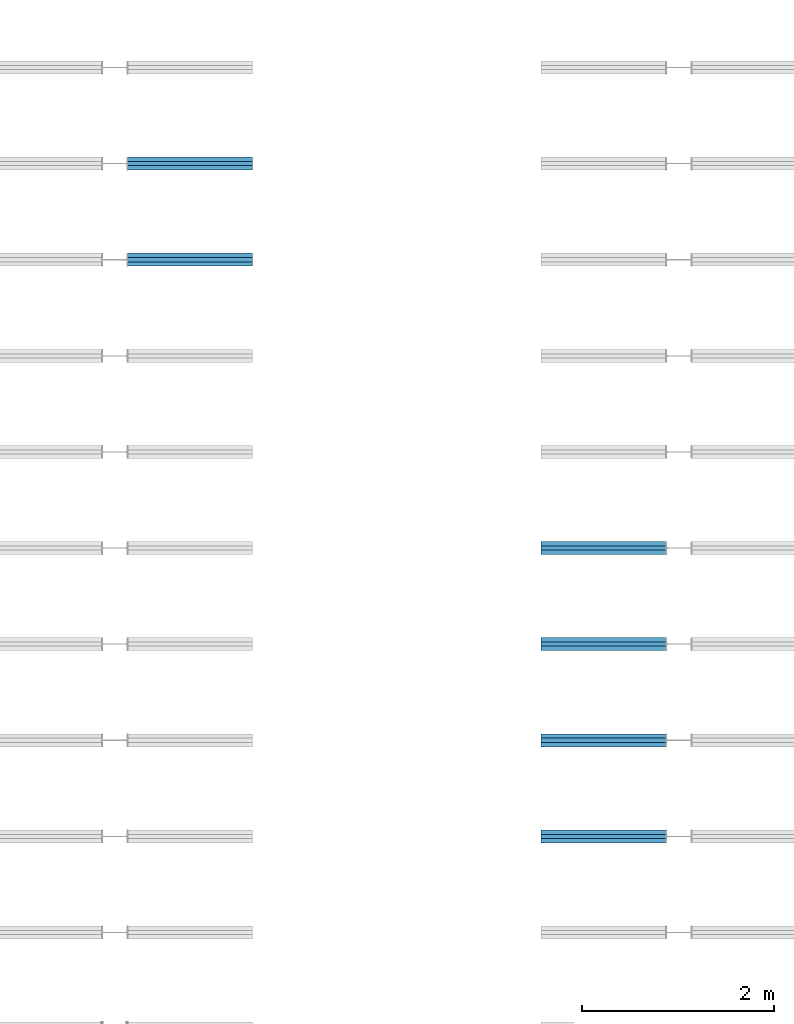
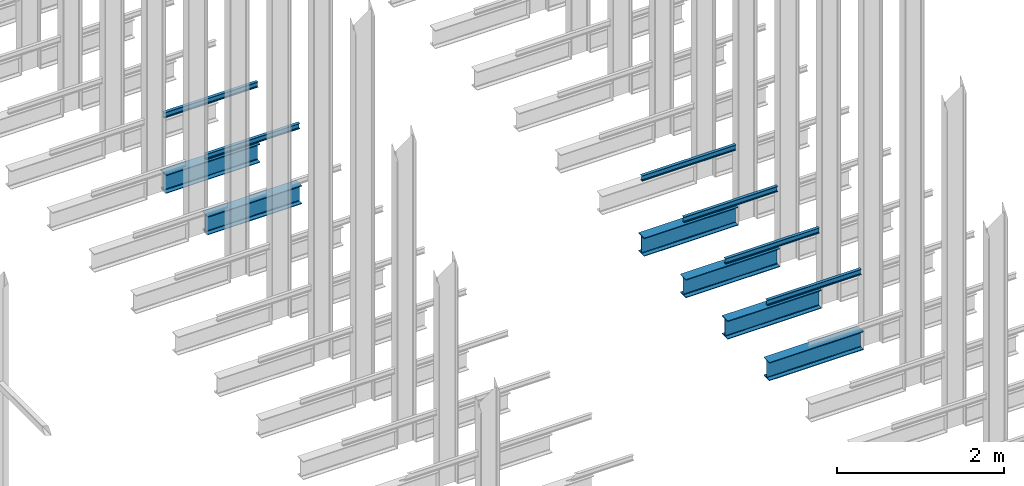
# One storey, part 174 of 302: 12 beams.
"""IFC2X3 building model written with IfcOpenShell, lengths in metres."""

from ifc_helpers import new_model, entity, si_unit, converted_unit, derived_unit, direction, frame, frame_2d, origin, place, context, subcontext, project, spatial, polyline, circle_curve, parameter, trimmed, segment, composite_curve, i_section, outline, extrude, material, type_object, element, save


model = new_model("IFC2X3")

# Units and contexts
model_context = context("Model", 3, precision=1e-05, world=origin(), true_north=direction((6.12303176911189e-17, 1.0)))
body_context = subcontext(model_context, "Body", "Model", "MODEL_VIEW")
ifc_project = project(units=[si_unit("LENGTHUNIT", "METRE"), si_unit("AREAUNIT", "SQUARE_METRE"), si_unit("VOLUMEUNIT", "CUBIC_METRE"), converted_unit("PLANEANGLEUNIT", "DEGREE", entity("IfcRatioMeasure", 0.0174532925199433), si_unit("PLANEANGLEUNIT", "RADIAN"), dimensions=[0, 0, 0, 0, 0, 0, 0]), si_unit("MASSUNIT", "GRAM", prefix="KILO"), derived_unit("MASSDENSITYUNIT", [(si_unit("MASSUNIT", "GRAM", prefix="KILO"), 1), (si_unit("LENGTHUNIT", "METRE"), -3)]), derived_unit("MOMENTOFINERTIAUNIT", [(si_unit("LENGTHUNIT", "METRE"), 4)]), si_unit("TIMEUNIT", "SECOND"), si_unit("FREQUENCYUNIT", "HERTZ"), si_unit("THERMODYNAMICTEMPERATUREUNIT", "DEGREE_CELSIUS"), derived_unit("THERMALTRANSMITTANCEUNIT", [(si_unit("MASSUNIT", "GRAM", prefix="KILO"), 1), (si_unit("THERMODYNAMICTEMPERATUREUNIT", "KELVIN"), -1), (si_unit("TIMEUNIT", "SECOND"), -3)]), derived_unit("VOLUMETRICFLOWRATEUNIT", [(si_unit("LENGTHUNIT", "METRE"), 3), (si_unit("TIMEUNIT", "SECOND"), -1)]), si_unit("ELECTRICCURRENTUNIT", "AMPERE"), si_unit("ELECTRICVOLTAGEUNIT", "VOLT"), si_unit("POWERUNIT", "WATT"), si_unit("FORCEUNIT", "NEWTON", prefix="KILO"), si_unit("ILLUMINANCEUNIT", "LUX"), si_unit("LUMINOUSFLUXUNIT", "LUMEN"), si_unit("LUMINOUSINTENSITYUNIT", "CANDELA"), derived_unit("USERDEFINED", [(si_unit("MASSUNIT", "GRAM", prefix="KILO"), -1), (si_unit("LENGTHUNIT", "METRE"), -2), (si_unit("TIMEUNIT", "SECOND"), 3), (si_unit("LUMINOUSFLUXUNIT", "LUMEN"), 1)]), derived_unit("LINEARVELOCITYUNIT", [(si_unit("LENGTHUNIT", "METRE"), 1), (si_unit("TIMEUNIT", "SECOND"), -1)]), si_unit("PRESSUREUNIT", "PASCAL"), derived_unit("USERDEFINED", [(si_unit("LENGTHUNIT", "METRE"), -2), (si_unit("MASSUNIT", "GRAM", prefix="KILO"), 1), (si_unit("TIMEUNIT", "SECOND"), -2)]), derived_unit("LINEARFORCEUNIT", [(si_unit("MASSUNIT", "GRAM", prefix="KILO"), 1), (si_unit("LENGTHUNIT", "METRE"), 1), (si_unit("TIMEUNIT", "SECOND"), -2), (si_unit("LENGTHUNIT", "METRE"), -1)]), derived_unit("PLANARFORCEUNIT", [(si_unit("MASSUNIT", "GRAM", prefix="KILO"), 1), (si_unit("LENGTHUNIT", "METRE"), 1), (si_unit("TIMEUNIT", "SECOND"), -2), (si_unit("LENGTHUNIT", "METRE"), -2)])], contexts=[model_context])

# Site, building, storey
site_placement = place(None, origin())
site = spatial("IfcSite", under=ifc_project, at=site_placement, Name="Default", CompositionType="ELEMENT")
building_placement = place(site_placement, origin())
building = spatial("IfcBuilding", under=site, at=building_placement, CompositionType="ELEMENT")
storey_placement = place(building_placement, frame((0.0, 0.0, -1.3)))
storey = spatial("IfcBuildingStorey", under=building, at=storey_placement, Name="00_EG", CompositionType="ELEMENT", Elevation=-1.3)

# Beams
ifc_material = material(Name="Metall - Baustahl S235")
beam_type_1 = type_object("IfcBeamType", Name="IPN Träger:IPN 80", PredefinedType="NOTDEFINED")
beam_1_placement = place(storey_placement, frame((-170.510111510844, 46.9945889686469, 2.42)))
element("IfcBeam", 1, at=beam_1_placement, inside=storey, type_object=beam_type_1, material=ifc_material, Name="IPN Träger:IPN 80", ObjectType="IPN Träger:IPN 80", context=body_context, shape_type="SweptSolid", body=[
    extrude(outline(composite_curve([segment(polyline([(0.0375704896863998, -0.0210000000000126), (0.0399999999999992, -0.0210000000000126)]), True, "CONTINUOUS"), segment(polyline([(0.0399999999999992, -0.0210000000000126), (0.0399999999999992, 0.0209999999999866)]), True, "CONTINUOUS"), segment(polyline([(0.039999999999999, 0.0209999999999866), (0.037570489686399, 0.0209999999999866)]), True, "CONTINUOUS"), segment(trimmed(circle_curve(frame_2d((0.0375704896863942, 0.0186999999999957), x_axis=(0.0, 1.0)), 0.0022999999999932), [parameter(0.0)], [parameter(82.0300000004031)], True, "PARAMETER"), True, "CONTINUOUS"), segment(polyline([(0.0352927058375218, 0.0190189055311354), (0.0333732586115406, 0.00530924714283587)]), True, "CONTINUOUS"), segment(trimmed(circle_curve(frame_2d((0.0295109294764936, 0.00584999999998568), x_axis=(0.990340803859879, -0.138654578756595)), 0.00389999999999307), [parameter(277.969999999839)], [parameter(0.0)], True, "PARAMETER"), False, "CONTINUOUS"), segment(polyline([(0.0295109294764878, 0.00194999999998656), (-0.0295109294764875, 0.00194999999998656)]), True, "CONTINUOUS"), segment(trimmed(circle_curve(frame_2d((-0.0295109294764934, 0.00584999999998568), x_axis=(0.0, -1.0)), 0.00389999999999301), [parameter(277.969999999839)], [parameter(0.0)], True, "PARAMETER"), False, "CONTINUOUS"), segment(polyline([(-0.0333732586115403, 0.00530924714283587), (-0.0352927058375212, 0.0190189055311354)]), True, "CONTINUOUS"), segment(trimmed(circle_curve(frame_2d((-0.0375704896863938, 0.0186999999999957), x_axis=(0.990340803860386, 0.138654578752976)), 0.00229999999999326), [parameter(0.0)], [parameter(82.0300000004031)], True, "PARAMETER"), True, "CONTINUOUS"), segment(polyline([(-0.0375704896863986, 0.0209999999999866), (-0.0400000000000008, 0.0209999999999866)]), True, "CONTINUOUS"), segment(polyline([(-0.0400000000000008, 0.0209999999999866), (-0.0400000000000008, -0.0210000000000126)]), True, "CONTINUOUS"), segment(polyline([(-0.0400000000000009, -0.0210000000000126), (-0.037570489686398, -0.0210000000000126)]), True, "CONTINUOUS"), segment(trimmed(circle_curve(frame_2d((-0.0375704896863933, -0.0187000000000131), x_axis=(0.0, -1.0)), 0.00229999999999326), [parameter(0.0)], [parameter(82.0300000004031)], True, "PARAMETER"), True, "CONTINUOUS"), segment(polyline([(-0.0352927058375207, -0.0190189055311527), (-0.0333732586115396, -0.0053092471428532)]), True, "CONTINUOUS"), segment(trimmed(circle_curve(frame_2d((-0.0295109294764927, -0.005850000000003), x_axis=(-0.990340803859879, 0.138654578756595)), 0.00389999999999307), [parameter(277.969999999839)], [parameter(0.0)], True, "PARAMETER"), False, "CONTINUOUS"), segment(polyline([(-0.0295109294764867, -0.00195000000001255), (0.0295109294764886, -0.00195000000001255)]), True, "CONTINUOUS"), segment(trimmed(circle_curve(frame_2d((0.0295109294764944, -0.005850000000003), x_axis=(0.0, 1.0)), 0.00389999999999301), [parameter(277.969999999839)], [parameter(0.0)], True, "PARAMETER"), False, "CONTINUOUS"), segment(polyline([(0.0333732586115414, -0.0053092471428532), (0.0352927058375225, -0.0190189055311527)]), True, "CONTINUOUS"), segment(trimmed(circle_curve(frame_2d((0.0375704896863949, -0.0187000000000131), x_axis=(-0.990340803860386, -0.138654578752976)), 0.00229999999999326), [parameter(0.0)], [parameter(82.0300000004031)], True, "PARAMETER"), True, "CONTINUOUS")], self_intersect=False)), frame((0.000100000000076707, 0.0210000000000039, -0.0400000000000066), z_axis=(1.0, 0.0, 0.0), x_axis=(0.0, 0.0, -1.0)), (0.0, 0.0, 1.0), 1.29990000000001),
])
beam_2_placement = place(storey_placement, frame((-170.510111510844, 45.9945889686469, 2.42)))
element("IfcBeam", 2, at=beam_2_placement, inside=storey, type_object=beam_type_1, material=ifc_material, Name="IPN Träger:IPN 80", ObjectType="IPN Träger:IPN 80", context=body_context, shape_type="SweptSolid", body=[
    extrude(outline(composite_curve([segment(polyline([(0.0375704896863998, -0.0210000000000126), (0.0399999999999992, -0.0210000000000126)]), True, "CONTINUOUS"), segment(polyline([(0.0399999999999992, -0.0210000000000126), (0.0399999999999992, 0.0209999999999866)]), True, "CONTINUOUS"), segment(polyline([(0.039999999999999, 0.0209999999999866), (0.037570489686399, 0.0209999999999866)]), True, "CONTINUOUS"), segment(trimmed(circle_curve(frame_2d((0.0375704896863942, 0.0186999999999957), x_axis=(0.0, 1.0)), 0.0022999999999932), [parameter(0.0)], [parameter(82.0300000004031)], True, "PARAMETER"), True, "CONTINUOUS"), segment(polyline([(0.0352927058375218, 0.0190189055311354), (0.0333732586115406, 0.00530924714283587)]), True, "CONTINUOUS"), segment(trimmed(circle_curve(frame_2d((0.0295109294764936, 0.00584999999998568), x_axis=(0.990340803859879, -0.138654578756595)), 0.00389999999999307), [parameter(277.969999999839)], [parameter(0.0)], True, "PARAMETER"), False, "CONTINUOUS"), segment(polyline([(0.0295109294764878, 0.00194999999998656), (-0.0295109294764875, 0.00194999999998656)]), True, "CONTINUOUS"), segment(trimmed(circle_curve(frame_2d((-0.0295109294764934, 0.00584999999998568), x_axis=(0.0, -1.0)), 0.00389999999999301), [parameter(277.969999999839)], [parameter(0.0)], True, "PARAMETER"), False, "CONTINUOUS"), segment(polyline([(-0.0333732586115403, 0.00530924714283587), (-0.0352927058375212, 0.0190189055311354)]), True, "CONTINUOUS"), segment(trimmed(circle_curve(frame_2d((-0.0375704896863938, 0.0186999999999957), x_axis=(0.990340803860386, 0.138654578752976)), 0.00229999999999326), [parameter(0.0)], [parameter(82.0300000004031)], True, "PARAMETER"), True, "CONTINUOUS"), segment(polyline([(-0.0375704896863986, 0.0209999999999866), (-0.0400000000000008, 0.0209999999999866)]), True, "CONTINUOUS"), segment(polyline([(-0.0400000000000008, 0.0209999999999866), (-0.0400000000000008, -0.0210000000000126)]), True, "CONTINUOUS"), segment(polyline([(-0.0400000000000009, -0.0210000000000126), (-0.037570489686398, -0.0210000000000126)]), True, "CONTINUOUS"), segment(trimmed(circle_curve(frame_2d((-0.0375704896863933, -0.0187000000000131), x_axis=(0.0, -1.0)), 0.00229999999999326), [parameter(0.0)], [parameter(82.0300000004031)], True, "PARAMETER"), True, "CONTINUOUS"), segment(polyline([(-0.0352927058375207, -0.0190189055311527), (-0.0333732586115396, -0.0053092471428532)]), True, "CONTINUOUS"), segment(trimmed(circle_curve(frame_2d((-0.0295109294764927, -0.005850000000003), x_axis=(-0.990340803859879, 0.138654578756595)), 0.00389999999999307), [parameter(277.969999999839)], [parameter(0.0)], True, "PARAMETER"), False, "CONTINUOUS"), segment(polyline([(-0.0295109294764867, -0.00195000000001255), (0.0295109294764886, -0.00195000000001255)]), True, "CONTINUOUS"), segment(trimmed(circle_curve(frame_2d((0.0295109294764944, -0.005850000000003), x_axis=(0.0, 1.0)), 0.00389999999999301), [parameter(277.969999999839)], [parameter(0.0)], True, "PARAMETER"), False, "CONTINUOUS"), segment(polyline([(0.0333732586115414, -0.0053092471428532), (0.0352927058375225, -0.0190189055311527)]), True, "CONTINUOUS"), segment(trimmed(circle_curve(frame_2d((0.0375704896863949, -0.0187000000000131), x_axis=(-0.990340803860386, -0.138654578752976)), 0.00229999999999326), [parameter(0.0)], [parameter(82.0300000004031)], True, "PARAMETER"), True, "CONTINUOUS")], self_intersect=False)), frame((0.000100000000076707, 0.0210000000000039, -0.0400000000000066), z_axis=(1.0, 0.0, 0.0), x_axis=(0.0, 0.0, -1.0)), (0.0, 0.0, 1.0), 1.29990000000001),
])
beam_3_placement = place(storey_placement, frame((-164.910111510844, 43.0365889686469, 2.42), z_axis=(0.0, 0.0, 1.0), x_axis=(-1.0, 0.0, 0.0)))
element("IfcBeam", 3, at=beam_3_placement, inside=storey, type_object=beam_type_1, material=ifc_material, Name="IPN Träger:IPN 80", ObjectType="IPN Träger:IPN 80", context=body_context, shape_type="SweptSolid", body=[
    extrude(outline(composite_curve([segment(polyline([(0.0375704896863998, -0.0209999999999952), (0.0399999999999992, -0.0209999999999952)]), True, "CONTINUOUS"), segment(polyline([(0.0399999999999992, -0.0209999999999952), (0.0399999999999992, 0.0210000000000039)]), True, "CONTINUOUS"), segment(polyline([(0.039999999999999, 0.0210000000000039), (0.037570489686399, 0.0210000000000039)]), True, "CONTINUOUS"), segment(trimmed(circle_curve(frame_2d((0.0375704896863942, 0.0187000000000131), x_axis=(0.0, 1.0)), 0.0022999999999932), [parameter(0.0)], [parameter(82.0300000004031)], True, "PARAMETER"), True, "CONTINUOUS"), segment(polyline([(0.0352927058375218, 0.0190189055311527), (0.0333732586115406, 0.0053092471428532)]), True, "CONTINUOUS"), segment(trimmed(circle_curve(frame_2d((0.0295109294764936, 0.005850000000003), x_axis=(0.990340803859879, -0.138654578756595)), 0.00389999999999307), [parameter(277.969999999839)], [parameter(0.0)], True, "PARAMETER"), False, "CONTINUOUS"), segment(polyline([(0.0295109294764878, 0.00195000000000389), (-0.0295109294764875, 0.00195000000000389)]), True, "CONTINUOUS"), segment(trimmed(circle_curve(frame_2d((-0.0295109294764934, 0.005850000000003), x_axis=(0.0, -1.0)), 0.00389999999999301), [parameter(277.969999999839)], [parameter(0.0)], True, "PARAMETER"), False, "CONTINUOUS"), segment(polyline([(-0.0333732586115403, 0.0053092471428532), (-0.0352927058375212, 0.0190189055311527)]), True, "CONTINUOUS"), segment(trimmed(circle_curve(frame_2d((-0.0375704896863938, 0.0187000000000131), x_axis=(0.990340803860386, 0.138654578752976)), 0.00229999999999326), [parameter(0.0)], [parameter(82.0300000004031)], True, "PARAMETER"), True, "CONTINUOUS"), segment(polyline([(-0.0375704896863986, 0.0210000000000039), (-0.0400000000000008, 0.0210000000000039)]), True, "CONTINUOUS"), segment(polyline([(-0.0400000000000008, 0.0210000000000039), (-0.0400000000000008, -0.0209999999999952)]), True, "CONTINUOUS"), segment(polyline([(-0.0400000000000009, -0.0209999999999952), (-0.037570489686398, -0.0209999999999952)]), True, "CONTINUOUS"), segment(trimmed(circle_curve(frame_2d((-0.0375704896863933, -0.0186999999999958), x_axis=(0.0, -1.0)), 0.00229999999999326), [parameter(0.0)], [parameter(82.0300000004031)], True, "PARAMETER"), True, "CONTINUOUS"), segment(polyline([(-0.0352927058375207, -0.0190189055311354), (-0.0333732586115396, -0.00530924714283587)]), True, "CONTINUOUS"), segment(trimmed(circle_curve(frame_2d((-0.0295109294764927, -0.00584999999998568), x_axis=(-0.990340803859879, 0.138654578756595)), 0.00389999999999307), [parameter(277.969999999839)], [parameter(0.0)], True, "PARAMETER"), False, "CONTINUOUS"), segment(polyline([(-0.0295109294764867, -0.00194999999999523), (0.0295109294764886, -0.00194999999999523)]), True, "CONTINUOUS"), segment(trimmed(circle_curve(frame_2d((0.0295109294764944, -0.00584999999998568), x_axis=(0.0, 1.0)), 0.00389999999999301), [parameter(277.969999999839)], [parameter(0.0)], True, "PARAMETER"), False, "CONTINUOUS"), segment(polyline([(0.0333732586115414, -0.00530924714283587), (0.0352927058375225, -0.0190189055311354)]), True, "CONTINUOUS"), segment(trimmed(circle_curve(frame_2d((0.0375704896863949, -0.0186999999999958), x_axis=(-0.990340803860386, -0.138654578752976)), 0.00229999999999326), [parameter(0.0)], [parameter(82.0300000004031)], True, "PARAMETER"), True, "CONTINUOUS")], self_intersect=False)), frame((0.000100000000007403, 0.0209999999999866, -0.0400000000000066), z_axis=(1.0, 0.0, 0.0), x_axis=(0.0, 0.0, -1.0)), (0.0, 0.0, 1.0), 1.29990000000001),
])
beam_4_placement = place(storey_placement, frame((-164.910111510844, 42.036588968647, 2.42), z_axis=(0.0, 0.0, 1.0), x_axis=(-1.0, 0.0, 0.0)))
element("IfcBeam", 4, at=beam_4_placement, inside=storey, type_object=beam_type_1, material=ifc_material, Name="IPN Träger:IPN 80", ObjectType="IPN Träger:IPN 80", context=body_context, shape_type="SweptSolid", body=[
    extrude(outline(composite_curve([segment(polyline([(0.0375704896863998, -0.0210000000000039), (0.0399999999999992, -0.0210000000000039)]), True, "CONTINUOUS"), segment(polyline([(0.0399999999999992, -0.0210000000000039), (0.0399999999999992, 0.0209999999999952)]), True, "CONTINUOUS"), segment(polyline([(0.039999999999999, 0.0209999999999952), (0.037570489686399, 0.0209999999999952)]), True, "CONTINUOUS"), segment(trimmed(circle_curve(frame_2d((0.0375704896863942, 0.0187000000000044), x_axis=(0.0, 1.0)), 0.0022999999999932), [parameter(0.0)], [parameter(82.0300000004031)], True, "PARAMETER"), True, "CONTINUOUS"), segment(polyline([(0.0352927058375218, 0.019018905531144), (0.0333732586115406, 0.00530924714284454)]), True, "CONTINUOUS"), segment(trimmed(circle_curve(frame_2d((0.0295109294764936, 0.00584999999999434), x_axis=(0.990340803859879, -0.138654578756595)), 0.00389999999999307), [parameter(277.969999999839)], [parameter(0.0)], True, "PARAMETER"), False, "CONTINUOUS"), segment(polyline([(0.0295109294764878, 0.00194999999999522), (-0.0295109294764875, 0.00194999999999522)]), True, "CONTINUOUS"), segment(trimmed(circle_curve(frame_2d((-0.0295109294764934, 0.00584999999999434), x_axis=(0.0, -1.0)), 0.00389999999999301), [parameter(277.969999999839)], [parameter(0.0)], True, "PARAMETER"), False, "CONTINUOUS"), segment(polyline([(-0.0333732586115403, 0.00530924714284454), (-0.0352927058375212, 0.019018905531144)]), True, "CONTINUOUS"), segment(trimmed(circle_curve(frame_2d((-0.0375704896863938, 0.0187000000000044), x_axis=(0.990340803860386, 0.138654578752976)), 0.00229999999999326), [parameter(0.0)], [parameter(82.0300000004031)], True, "PARAMETER"), True, "CONTINUOUS"), segment(polyline([(-0.0375704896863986, 0.0209999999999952), (-0.0400000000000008, 0.0209999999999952)]), True, "CONTINUOUS"), segment(polyline([(-0.0400000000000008, 0.0209999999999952), (-0.0400000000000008, -0.0210000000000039)]), True, "CONTINUOUS"), segment(polyline([(-0.0400000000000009, -0.0210000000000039), (-0.037570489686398, -0.0210000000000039)]), True, "CONTINUOUS"), segment(trimmed(circle_curve(frame_2d((-0.0375704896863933, -0.0187000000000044), x_axis=(0.0, -1.0)), 0.00229999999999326), [parameter(0.0)], [parameter(82.0300000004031)], True, "PARAMETER"), True, "CONTINUOUS"), segment(polyline([(-0.0352927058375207, -0.019018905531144), (-0.0333732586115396, -0.00530924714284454)]), True, "CONTINUOUS"), segment(trimmed(circle_curve(frame_2d((-0.0295109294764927, -0.00584999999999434), x_axis=(-0.990340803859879, 0.138654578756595)), 0.00389999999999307), [parameter(277.969999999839)], [parameter(0.0)], True, "PARAMETER"), False, "CONTINUOUS"), segment(polyline([(-0.0295109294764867, -0.00195000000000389), (0.0295109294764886, -0.00195000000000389)]), True, "CONTINUOUS"), segment(trimmed(circle_curve(frame_2d((0.0295109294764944, -0.00584999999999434), x_axis=(0.0, 1.0)), 0.00389999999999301), [parameter(277.969999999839)], [parameter(0.0)], True, "PARAMETER"), False, "CONTINUOUS"), segment(polyline([(0.0333732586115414, -0.00530924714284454), (0.0352927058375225, -0.019018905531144)]), True, "CONTINUOUS"), segment(trimmed(circle_curve(frame_2d((0.0375704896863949, -0.0187000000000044), x_axis=(-0.990340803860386, -0.138654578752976)), 0.00229999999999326), [parameter(0.0)], [parameter(82.0300000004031)], True, "PARAMETER"), True, "CONTINUOUS")], self_intersect=False)), frame((0.000100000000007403, 0.0209999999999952, -0.0400000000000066), z_axis=(1.0, 0.0, 0.0), x_axis=(0.0, 0.0, -1.0)), (0.0, 0.0, 1.0), 1.29990000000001),
])
beam_5_placement = place(storey_placement, frame((-164.910111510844, 41.036588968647, 2.42), z_axis=(0.0, 0.0, 1.0), x_axis=(-1.0, 0.0, 0.0)))
element("IfcBeam", 5, at=beam_5_placement, inside=storey, type_object=beam_type_1, material=ifc_material, Name="IPN Träger:IPN 80", ObjectType="IPN Träger:IPN 80", context=body_context, shape_type="SweptSolid", body=[
    extrude(outline(composite_curve([segment(polyline([(0.0375704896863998, -0.0210000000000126), (0.0399999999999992, -0.0210000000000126)]), True, "CONTINUOUS"), segment(polyline([(0.0399999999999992, -0.0210000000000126), (0.0399999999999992, 0.0209999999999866)]), True, "CONTINUOUS"), segment(polyline([(0.039999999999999, 0.0209999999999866), (0.037570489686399, 0.0209999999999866)]), True, "CONTINUOUS"), segment(trimmed(circle_curve(frame_2d((0.0375704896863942, 0.0186999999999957), x_axis=(0.0, 1.0)), 0.0022999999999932), [parameter(0.0)], [parameter(82.0300000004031)], True, "PARAMETER"), True, "CONTINUOUS"), segment(polyline([(0.0352927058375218, 0.0190189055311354), (0.0333732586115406, 0.00530924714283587)]), True, "CONTINUOUS"), segment(trimmed(circle_curve(frame_2d((0.0295109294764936, 0.00584999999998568), x_axis=(0.990340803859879, -0.138654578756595)), 0.00389999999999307), [parameter(277.969999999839)], [parameter(0.0)], True, "PARAMETER"), False, "CONTINUOUS"), segment(polyline([(0.0295109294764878, 0.00194999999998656), (-0.0295109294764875, 0.00194999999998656)]), True, "CONTINUOUS"), segment(trimmed(circle_curve(frame_2d((-0.0295109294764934, 0.00584999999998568), x_axis=(0.0, -1.0)), 0.00389999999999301), [parameter(277.969999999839)], [parameter(0.0)], True, "PARAMETER"), False, "CONTINUOUS"), segment(polyline([(-0.0333732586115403, 0.00530924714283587), (-0.0352927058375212, 0.0190189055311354)]), True, "CONTINUOUS"), segment(trimmed(circle_curve(frame_2d((-0.0375704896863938, 0.0186999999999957), x_axis=(0.990340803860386, 0.138654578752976)), 0.00229999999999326), [parameter(0.0)], [parameter(82.0300000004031)], True, "PARAMETER"), True, "CONTINUOUS"), segment(polyline([(-0.0375704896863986, 0.0209999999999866), (-0.0400000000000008, 0.0209999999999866)]), True, "CONTINUOUS"), segment(polyline([(-0.0400000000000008, 0.0209999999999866), (-0.0400000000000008, -0.0210000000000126)]), True, "CONTINUOUS"), segment(polyline([(-0.0400000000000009, -0.0210000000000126), (-0.037570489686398, -0.0210000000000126)]), True, "CONTINUOUS"), segment(trimmed(circle_curve(frame_2d((-0.0375704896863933, -0.0187000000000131), x_axis=(0.0, -1.0)), 0.00229999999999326), [parameter(0.0)], [parameter(82.0300000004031)], True, "PARAMETER"), True, "CONTINUOUS"), segment(polyline([(-0.0352927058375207, -0.0190189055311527), (-0.0333732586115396, -0.0053092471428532)]), True, "CONTINUOUS"), segment(trimmed(circle_curve(frame_2d((-0.0295109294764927, -0.005850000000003), x_axis=(-0.990340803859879, 0.138654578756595)), 0.00389999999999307), [parameter(277.969999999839)], [parameter(0.0)], True, "PARAMETER"), False, "CONTINUOUS"), segment(polyline([(-0.0295109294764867, -0.00195000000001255), (0.0295109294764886, -0.00195000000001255)]), True, "CONTINUOUS"), segment(trimmed(circle_curve(frame_2d((0.0295109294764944, -0.005850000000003), x_axis=(0.0, 1.0)), 0.00389999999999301), [parameter(277.969999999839)], [parameter(0.0)], True, "PARAMETER"), False, "CONTINUOUS"), segment(polyline([(0.0333732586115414, -0.0053092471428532), (0.0352927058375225, -0.0190189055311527)]), True, "CONTINUOUS"), segment(trimmed(circle_curve(frame_2d((0.0375704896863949, -0.0187000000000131), x_axis=(-0.990340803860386, -0.138654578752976)), 0.00229999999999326), [parameter(0.0)], [parameter(82.0300000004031)], True, "PARAMETER"), True, "CONTINUOUS")], self_intersect=False)), frame((0.000100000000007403, 0.0210000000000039, -0.0400000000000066), z_axis=(1.0, 0.0, 0.0), x_axis=(0.0, 0.0, -1.0)), (0.0, 0.0, 1.0), 1.29990000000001),
])
beam_6_placement = place(storey_placement, frame((-164.910111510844, 40.036588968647, 2.42), z_axis=(0.0, 0.0, 1.0), x_axis=(-1.0, 0.0, 0.0)))
element("IfcBeam", 6, at=beam_6_placement, inside=storey, type_object=beam_type_1, material=ifc_material, Name="IPN Träger:IPN 80", ObjectType="IPN Träger:IPN 80", context=body_context, shape_type="SweptSolid", body=[
    extrude(outline(composite_curve([segment(polyline([(0.0375704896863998, -0.0210000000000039), (0.0399999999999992, -0.0210000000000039)]), True, "CONTINUOUS"), segment(polyline([(0.0399999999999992, -0.0210000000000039), (0.0399999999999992, 0.0209999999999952)]), True, "CONTINUOUS"), segment(polyline([(0.039999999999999, 0.0209999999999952), (0.037570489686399, 0.0209999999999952)]), True, "CONTINUOUS"), segment(trimmed(circle_curve(frame_2d((0.0375704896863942, 0.0187000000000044), x_axis=(0.0, 1.0)), 0.0022999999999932), [parameter(0.0)], [parameter(82.0300000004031)], True, "PARAMETER"), True, "CONTINUOUS"), segment(polyline([(0.0352927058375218, 0.019018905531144), (0.0333732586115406, 0.00530924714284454)]), True, "CONTINUOUS"), segment(trimmed(circle_curve(frame_2d((0.0295109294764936, 0.00584999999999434), x_axis=(0.990340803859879, -0.138654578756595)), 0.00389999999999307), [parameter(277.969999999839)], [parameter(0.0)], True, "PARAMETER"), False, "CONTINUOUS"), segment(polyline([(0.0295109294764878, 0.00194999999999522), (-0.0295109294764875, 0.00194999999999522)]), True, "CONTINUOUS"), segment(trimmed(circle_curve(frame_2d((-0.0295109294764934, 0.00584999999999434), x_axis=(0.0, -1.0)), 0.00389999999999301), [parameter(277.969999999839)], [parameter(0.0)], True, "PARAMETER"), False, "CONTINUOUS"), segment(polyline([(-0.0333732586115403, 0.00530924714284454), (-0.0352927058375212, 0.019018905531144)]), True, "CONTINUOUS"), segment(trimmed(circle_curve(frame_2d((-0.0375704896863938, 0.0187000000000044), x_axis=(0.990340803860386, 0.138654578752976)), 0.00229999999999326), [parameter(0.0)], [parameter(82.0300000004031)], True, "PARAMETER"), True, "CONTINUOUS"), segment(polyline([(-0.0375704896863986, 0.0209999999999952), (-0.0400000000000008, 0.0209999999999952)]), True, "CONTINUOUS"), segment(polyline([(-0.0400000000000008, 0.0209999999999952), (-0.0400000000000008, -0.0210000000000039)]), True, "CONTINUOUS"), segment(polyline([(-0.0400000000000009, -0.0210000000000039), (-0.037570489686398, -0.0210000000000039)]), True, "CONTINUOUS"), segment(trimmed(circle_curve(frame_2d((-0.0375704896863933, -0.0187000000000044), x_axis=(0.0, -1.0)), 0.00229999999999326), [parameter(0.0)], [parameter(82.0300000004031)], True, "PARAMETER"), True, "CONTINUOUS"), segment(polyline([(-0.0352927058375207, -0.019018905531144), (-0.0333732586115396, -0.00530924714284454)]), True, "CONTINUOUS"), segment(trimmed(circle_curve(frame_2d((-0.0295109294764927, -0.00584999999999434), x_axis=(-0.990340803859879, 0.138654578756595)), 0.00389999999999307), [parameter(277.969999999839)], [parameter(0.0)], True, "PARAMETER"), False, "CONTINUOUS"), segment(polyline([(-0.0295109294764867, -0.00195000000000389), (0.0295109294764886, -0.00195000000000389)]), True, "CONTINUOUS"), segment(trimmed(circle_curve(frame_2d((0.0295109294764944, -0.00584999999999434), x_axis=(0.0, 1.0)), 0.00389999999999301), [parameter(277.969999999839)], [parameter(0.0)], True, "PARAMETER"), False, "CONTINUOUS"), segment(polyline([(0.0333732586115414, -0.00530924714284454), (0.0352927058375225, -0.019018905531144)]), True, "CONTINUOUS"), segment(trimmed(circle_curve(frame_2d((0.0375704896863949, -0.0187000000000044), x_axis=(-0.990340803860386, -0.138654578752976)), 0.00229999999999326), [parameter(0.0)], [parameter(82.0300000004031)], True, "PARAMETER"), True, "CONTINUOUS")], self_intersect=False)), frame((0.000100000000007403, 0.0209999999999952, -0.0400000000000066), z_axis=(1.0, 0.0, 0.0), x_axis=(0.0, 0.0, -1.0)), (0.0, 0.0, 1.0), 1.29990000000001),
])
beam_type_2 = type_object("IfcBeamType", Name="IPE Träger:IPE 270", PredefinedType="NOTDEFINED")
beam_7_placement = place(storey_placement, frame((-170.510111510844, 46.0830889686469, 1.54000000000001)))
element("IfcBeam", 7, at=beam_7_placement, inside=storey, type_object=beam_type_2, material=ifc_material, Name="IPE Träger:IPE 270", ObjectType="IPE Träger:IPE 270", context=body_context, shape_type="SweptSolid", body=[
    extrude(i_section(OverallWidth=0.134999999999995, OverallDepth=0.27, WebThickness=0.0065999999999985, FlangeThickness=0.0102000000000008, FilletRadius=0.0149999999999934, at=frame_2d((5.96744875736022e-16, 0.0), x_axis=(0.0, 1.0))), frame((0.00010000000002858, -0.067500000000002, -0.135000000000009), z_axis=(1.0, 0.0, 0.0), x_axis=(0.0, 0.0, -1.0)), (0.0, 0.0, 1.0), 1.29990000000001),
])
beam_8_placement = place(storey_placement, frame((-170.510111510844, 47.0830889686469, 1.54000000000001)))
element("IfcBeam", 8, at=beam_8_placement, inside=storey, type_object=beam_type_2, material=ifc_material, Name="IPE Träger:IPE 270", ObjectType="IPE Träger:IPE 270", context=body_context, shape_type="SweptSolid", body=[
    extrude(i_section(OverallWidth=0.134999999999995, OverallDepth=0.27, WebThickness=0.0065999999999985, FlangeThickness=0.0102000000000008, FilletRadius=0.0149999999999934, at=frame_2d((5.96744875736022e-16, -8.66667848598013e-15), x_axis=(0.0, 1.0))), frame((0.0001000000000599, -0.0674999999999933, -0.135000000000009), z_axis=(1.0, 0.0, 0.0), x_axis=(0.0, 0.0, -1.0)), (0.0, 0.0, 1.0), 1.29990000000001),
])
beam_9_placement = place(storey_placement, frame((-164.910111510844, 40.083088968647, 1.54000000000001), z_axis=(0.0, 0.0, 1.0), x_axis=(-1.0, 0.0, 0.0)))
element("IfcBeam", 9, at=beam_9_placement, inside=storey, type_object=beam_type_2, material=ifc_material, Name="IPE Träger:IPE 270", ObjectType="IPE Träger:IPE 270", context=body_context, shape_type="SweptSolid", body=[
    extrude(i_section(OverallWidth=0.134999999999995, OverallDepth=0.27, WebThickness=0.0065999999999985, FlangeThickness=0.0102000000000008, FilletRadius=0.0149999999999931, at=frame_2d((5.96744875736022e-16, 0.0), x_axis=(0.0, 1.0))), frame((0.000100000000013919, 0.067500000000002, -0.135000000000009), z_axis=(1.0, 0.0, 0.0), x_axis=(0.0, 0.0, -1.0)), (0.0, 0.0, 1.0), 1.29990000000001),
])
beam_10_placement = place(storey_placement, frame((-164.910111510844, 41.0830889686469, 1.54000000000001), z_axis=(0.0, 0.0, 1.0), x_axis=(-1.0, 0.0, 0.0)))
element("IfcBeam", 10, at=beam_10_placement, inside=storey, type_object=beam_type_2, material=ifc_material, Name="IPE Träger:IPE 270", ObjectType="IPE Träger:IPE 270", context=body_context, shape_type="SweptSolid", body=[
    extrude(i_section(OverallWidth=0.134999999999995, OverallDepth=0.27, WebThickness=0.0065999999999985, FlangeThickness=0.0102000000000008, FilletRadius=0.0149999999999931, at=frame_2d((5.96744875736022e-16, 0.0), x_axis=(0.0, 1.0))), frame((0.000100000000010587, 0.067500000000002, -0.135000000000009), z_axis=(1.0, 0.0, 0.0), x_axis=(0.0, 0.0, -1.0)), (0.0, 0.0, 1.0), 1.29990000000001),
])
beam_11_placement = place(storey_placement, frame((-164.910111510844, 42.0830889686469, 1.54000000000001), z_axis=(0.0, 0.0, 1.0), x_axis=(-1.0, 0.0, 0.0)))
element("IfcBeam", 11, at=beam_11_placement, inside=storey, type_object=beam_type_2, material=ifc_material, Name="IPE Träger:IPE 270", ObjectType="IPE Träger:IPE 270", context=body_context, shape_type="SweptSolid", body=[
    extrude(i_section(OverallWidth=0.134999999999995, OverallDepth=0.27, WebThickness=0.0065999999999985, FlangeThickness=0.0102000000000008, FilletRadius=0.0149999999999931, at=frame_2d((5.96744875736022e-16, 0.0), x_axis=(0.0, 1.0))), frame((0.000100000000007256, 0.067500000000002, -0.135000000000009), z_axis=(1.0, 0.0, 0.0), x_axis=(0.0, 0.0, -1.0)), (0.0, 0.0, 1.0), 1.29990000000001),
])
beam_12_placement = place(storey_placement, frame((-164.910111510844, 43.0830889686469, 1.54000000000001), z_axis=(0.0, 0.0, 1.0), x_axis=(-1.0, 0.0, 0.0)))
element("IfcBeam", 12, at=beam_12_placement, inside=storey, type_object=beam_type_2, material=ifc_material, Name="IPE Träger:IPE 270", ObjectType="IPE Träger:IPE 270", context=body_context, shape_type="SweptSolid", body=[
    extrude(i_section(OverallWidth=0.134999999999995, OverallDepth=0.27, WebThickness=0.0065999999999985, FlangeThickness=0.0102000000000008, FilletRadius=0.0149999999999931, at=frame_2d((5.96744875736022e-16, 8.66667848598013e-15), x_axis=(0.0, 1.0))), frame((0.000100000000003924, 0.0674999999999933, -0.135000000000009), z_axis=(1.0, 0.0, 0.0), x_axis=(0.0, 0.0, -1.0)), (0.0, 0.0, 1.0), 1.29990000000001),
])

save(model, "model.ifc")
